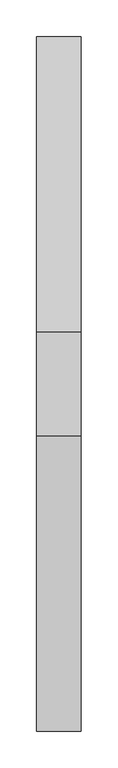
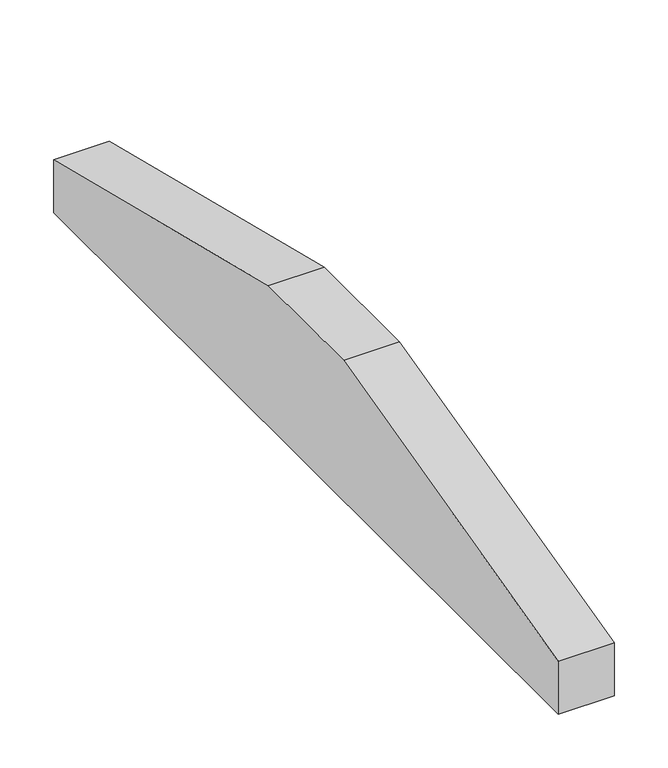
"""IFC4 building model written with IfcOpenShell, lengths in millimetres: proxy geometry, Modelos genéricos 167 : Modelos genéricos 144."""

from ifc_helpers import new_model, si_unit, frame, origin, place, context, project, spatial, polyline, outline, extrude, source, transform, mapped, element, save


def generic_models_6cd86b28(model_context):
    return source(origin(), model_context, "Body", "SweptSolid", [
        extrude(outline(polyline([(2018.6238165, 4209.7515316), (2418.6238165, 4110.0203305), (2418.6238165, 4049.7515316), (1478.6238165, 4049.7515316), (1478.6238165, 4110.0203305), (1878.6238165, 4209.7515316), (2018.6238165, 4209.7515316)])), frame((58863.4472467, 0.0, 0.0), z_axis=(1.0, 0.0, 0.0), x_axis=(0.0, 1.0, 0.0)), (0.0, 0.0, 1.0), 60.0),
    ])


if __name__ == "__main__":
    model = new_model("IFC4")
    model_context = context("Model", 3, world=origin())
    ifc_project = project(units=[si_unit("LENGTHUNIT", "METRE", prefix="MILLI")], contexts=[model_context])
    site = spatial("IfcSite", under=ifc_project)
    building = spatial("IfcBuilding", under=site)
    placement = place(None, origin())
    generic_models_shape = generic_models_6cd86b28(model_context)
    element("IfcBuildingElementProxy", 1, Name="Modelos genéricos 167 : Modelos genéricos 144", ObjectType="Modelos genéricos 167 : Modelos genéricos 144", at=placement, inside=building, context=model_context, shape_type="MappedRepresentation", body=[
        mapped(generic_models_shape, transform((0.0, 0.0, 0.0), x_axis=(1.0, 0.0, 0.0), y_axis=(0.0, 1.0, 0.0), z_axis=(0.0, 0.0, 1.0))),
    ])
    save(model, "model.ifc")
